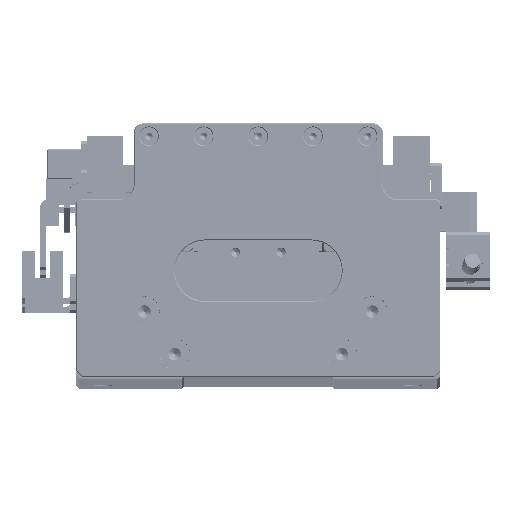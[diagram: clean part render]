
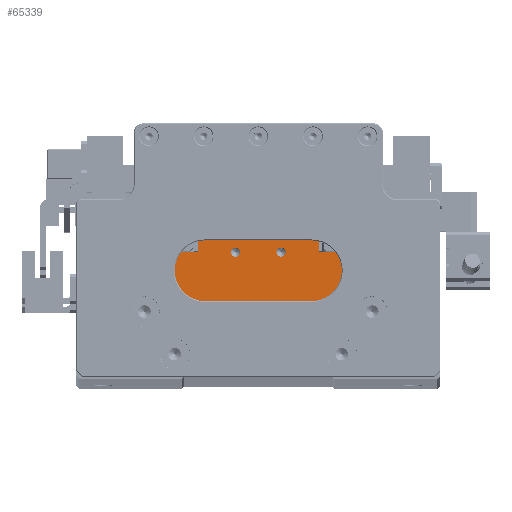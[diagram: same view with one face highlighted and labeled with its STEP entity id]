
A CAD part, top view. The second image highlights one B-rep face of the part: STEP entity #65339.
In plain terms, the highlighted planar face has unit normal (0, 0, 1).
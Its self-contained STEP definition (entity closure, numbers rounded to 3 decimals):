
#2246 = DIRECTION ( 'NONE',  ( 1., 0., 0. ) ) ;
#3467 = LINE ( 'NONE', #128459, #60914 ) ;
#4419 = DIRECTION ( 'NONE',  ( 1., 0., 0. ) ) ;
#5031 = VECTOR ( 'NONE', #4419, 1000. ) ;
#6114 = VECTOR ( 'NONE', #2246, 1000. ) ;
#6718 = CARTESIAN_POINT ( 'NONE',  ( -62.625, 82.98, 462.722 ) ) ;
#7508 = VERTEX_POINT ( 'NONE', #6718 ) ;
#8333 = DIRECTION ( 'NONE',  ( 1., 0., 0. ) ) ;
#11051 = EDGE_LOOP ( 'NONE', ( #132399, #67425, #110146, #33781, #56007, #78713, #83520, #133621 ) ) ;
#13119 = CARTESIAN_POINT ( 'NONE',  ( -76.65, 79.08, 462.722 ) ) ;
#16156 = CARTESIAN_POINT ( 'NONE',  ( -102.625, 78.98, 462.722 ) ) ;
#19518 = CARTESIAN_POINT ( 'NONE',  ( -73.6, 79.08, 462.722 ) ) ;
#20191 = FACE_BOUND ( 'NONE', #86741, .T. ) ;
#20413 = EDGE_CURVE ( 'NONE', #124995, #105772, #70249, .T. ) ;
#20611 = EDGE_CURVE ( 'NONE', #105772, #99546, #33744, .T. ) ;
#23323 = DIRECTION ( 'NONE',  ( 0., 1., 0. ) ) ;
#23512 = DIRECTION ( 'NONE',  ( 0., 0., 1. ) ) ;
#26216 = CARTESIAN_POINT ( 'NONE',  ( -90.125, 82.98, 462.722 ) ) ;
#26406 = CARTESIAN_POINT ( 'NONE',  ( -112.525, 78.98, 462.722 ) ) ;
#27145 = PLANE ( 'NONE',  #94688 ) ;
#28593 = EDGE_CURVE ( 'NONE', #99546, #123292, #3467, .T. ) ;
#28656 = EDGE_CURVE ( 'NONE', #133939, #32446, #108215, .T. ) ;
#29563 = AXIS2_PLACEMENT_3D ( 'NONE', #58364, #133895, #69123 ) ;
#30294 = LINE ( 'NONE', #98922, #87632 ) ;
#30393 = DIRECTION ( 'NONE',  ( 0., -1., 0. ) ) ;
#32446 = VERTEX_POINT ( 'NONE', #19518 ) ;
#32563 = CARTESIAN_POINT ( 'NONE',  ( -75.125, 79.08, 462.722 ) ) ;
#33744 = LINE ( 'NONE', #79851, #5031 ) ;
#33781 = ORIENTED_EDGE ( 'NONE', *, *, #76139, .F. ) ;
#34836 = VERTEX_POINT ( 'NONE', #122025 ) ;
#40253 = EDGE_CURVE ( 'NONE', #49668, #62394, #81900, .T. ) ;
#40467 = EDGE_CURVE ( 'NONE', #124995, #54453, #63543, .T. ) ;
#41609 = VECTOR ( 'NONE', #23323, 1000. ) ;
#41941 = LINE ( 'NONE', #105954, #128142 ) ;
#43191 = ORIENTED_EDGE ( 'NONE', *, *, #65229, .F. ) ;
#43450 = DIRECTION ( 'NONE',  ( 1., 0., 0. ) ) ;
#44561 = VERTEX_POINT ( 'NONE', #66427 ) ;
#46689 = CARTESIAN_POINT ( 'NONE',  ( -112.525, 59.78, 462.722 ) ) ;
#48903 = CARTESIAN_POINT ( 'NONE',  ( -90.125, 71.48, 462.722 ) ) ;
#49668 = VERTEX_POINT ( 'NONE', #94455 ) ;
#50571 = CARTESIAN_POINT ( 'NONE',  ( -52.725, 78.98, 462.722 ) ) ;
#53843 = EDGE_LOOP ( 'NONE', ( #43191, #75569 ) ) ;
#54453 = VERTEX_POINT ( 'NONE', #76017 ) ;
#56007 = ORIENTED_EDGE ( 'NONE', *, *, #40253, .F. ) ;
#58364 = CARTESIAN_POINT ( 'NONE',  ( -75.125, 79.08, 462.722 ) ) ;
#59751 = DIRECTION ( 'NONE',  ( 0., 0., -1. ) ) ;
#60914 = VECTOR ( 'NONE', #139287, 1000. ) ;
#61911 = AXIS2_PLACEMENT_3D ( 'NONE', #137698, #72960, #8333 ) ;
#62394 = VERTEX_POINT ( 'NONE', #50571 ) ;
#63543 = LINE ( 'NONE', #99503, #6114 ) ;
#65229 = EDGE_CURVE ( 'NONE', #32446, #133939, #116599, .T. ) ;
#65339 = ADVANCED_FACE ( 'NONE', ( #77569, #109817, #20191 ), #27145, .F. ) ;
#66427 = CARTESIAN_POINT ( 'NONE',  ( -88.6, 79.08, 462.722 ) ) ;
#67202 = ORIENTED_EDGE ( 'NONE', *, *, #114138, .F. ) ;
#67425 = ORIENTED_EDGE ( 'NONE', *, *, #20413, .F. ) ;
#68343 = AXIS2_PLACEMENT_3D ( 'NONE', #88123, #23512, #99081 ) ;
#69123 = DIRECTION ( 'NONE',  ( 1., 0., 0. ) ) ;
#69461 = ORIENTED_EDGE ( 'NONE', *, *, #76941, .F. ) ;
#70249 = LINE ( 'NONE', #77062, #41609 ) ;
#71997 = CARTESIAN_POINT ( 'NONE',  ( -102.625, 82.98, 462.722 ) ) ;
#72613 = CARTESIAN_POINT ( 'NONE',  ( -90.125, 78.98, 462.722 ) ) ;
#72960 = DIRECTION ( 'NONE',  ( 0., 0., 1. ) ) ;
#75493 = EDGE_CURVE ( 'NONE', #7508, #49668, #30294, .T. ) ;
#75569 = ORIENTED_EDGE ( 'NONE', *, *, #28656, .F. ) ;
#76017 = CARTESIAN_POINT ( 'NONE',  ( -52.725, 59.78, 462.722 ) ) ;
#76139 = EDGE_CURVE ( 'NONE', #62394, #54453, #41941, .T. ) ;
#76941 = EDGE_CURVE ( 'NONE', #44561, #34836, #111063, .T. ) ;
#77062 = CARTESIAN_POINT ( 'NONE',  ( -112.525, 71.48, 462.722 ) ) ;
#77569 = FACE_OUTER_BOUND ( 'NONE', #11051, .T. ) ;
#78713 = ORIENTED_EDGE ( 'NONE', *, *, #75493, .F. ) ;
#79686 = CIRCLE ( 'NONE', #61911, 1.525 ) ;
#79851 = CARTESIAN_POINT ( 'NONE',  ( -90.125, 78.98, 462.722 ) ) ;
#80437 = DIRECTION ( 'NONE',  ( 1., 0., 0. ) ) ;
#81900 = LINE ( 'NONE', #72613, #103944 ) ;
#83520 = ORIENTED_EDGE ( 'NONE', *, *, #92059, .F. ) ;
#86741 = EDGE_LOOP ( 'NONE', ( #69461, #67202 ) ) ;
#87632 = VECTOR ( 'NONE', #131523, 1000. ) ;
#88123 = CARTESIAN_POINT ( 'NONE',  ( -90.125, 79.08, 462.722 ) ) ;
#92059 = EDGE_CURVE ( 'NONE', #123292, #7508, #134946, .T. ) ;
#94455 = CARTESIAN_POINT ( 'NONE',  ( -62.625, 78.98, 462.722 ) ) ;
#94688 = AXIS2_PLACEMENT_3D ( 'NONE', #48903, #59751, #135263 ) ;
#98922 = CARTESIAN_POINT ( 'NONE',  ( -62.625, 71.48, 462.722 ) ) ;
#99081 = DIRECTION ( 'NONE',  ( 1., 0., 0. ) ) ;
#99503 = CARTESIAN_POINT ( 'NONE',  ( -90.125, 59.78, 462.722 ) ) ;
#99546 = VERTEX_POINT ( 'NONE', #16156 ) ;
#103944 = VECTOR ( 'NONE', #126998, 1000. ) ;
#105772 = VERTEX_POINT ( 'NONE', #26406 ) ;
#105954 = CARTESIAN_POINT ( 'NONE',  ( -52.725, 71.48, 462.722 ) ) ;
#106241 = VECTOR ( 'NONE', #80437, 1000. ) ;
#108137 = DIRECTION ( 'NONE',  ( 0., 0., 1. ) ) ;
#108215 = CIRCLE ( 'NONE', #124116, 1.525 ) ;
#109817 = FACE_BOUND ( 'NONE', #53843, .T. ) ;
#110146 = ORIENTED_EDGE ( 'NONE', *, *, #40467, .T. ) ;
#111063 = CIRCLE ( 'NONE', #68343, 1.525 ) ;
#114138 = EDGE_CURVE ( 'NONE', #34836, #44561, #79686, .T. ) ;
#116599 = CIRCLE ( 'NONE', #29563, 1.525 ) ;
#122025 = CARTESIAN_POINT ( 'NONE',  ( -91.65, 79.08, 462.722 ) ) ;
#123292 = VERTEX_POINT ( 'NONE', #71997 ) ;
#124116 = AXIS2_PLACEMENT_3D ( 'NONE', #32563, #108137, #43450 ) ;
#124995 = VERTEX_POINT ( 'NONE', #46689 ) ;
#126998 = DIRECTION ( 'NONE',  ( 1., 0., 0. ) ) ;
#128142 = VECTOR ( 'NONE', #30393, 1000. ) ;
#128459 = CARTESIAN_POINT ( 'NONE',  ( -102.625, 71.48, 462.722 ) ) ;
#131523 = DIRECTION ( 'NONE',  ( 0., -1., 0. ) ) ;
#132399 = ORIENTED_EDGE ( 'NONE', *, *, #20611, .F. ) ;
#133621 = ORIENTED_EDGE ( 'NONE', *, *, #28593, .F. ) ;
#133895 = DIRECTION ( 'NONE',  ( 0., 0., 1. ) ) ;
#133939 = VERTEX_POINT ( 'NONE', #13119 ) ;
#134946 = LINE ( 'NONE', #26216, #106241 ) ;
#135263 = DIRECTION ( 'NONE',  ( -1., 0., 0. ) ) ;
#137698 = CARTESIAN_POINT ( 'NONE',  ( -90.125, 79.08, 462.722 ) ) ;
#139287 = DIRECTION ( 'NONE',  ( 0., 1., 0. ) ) ;
